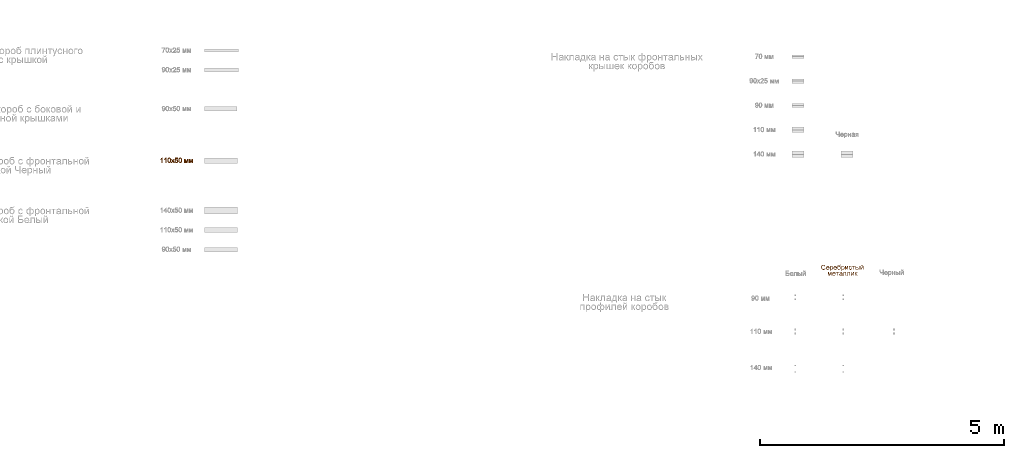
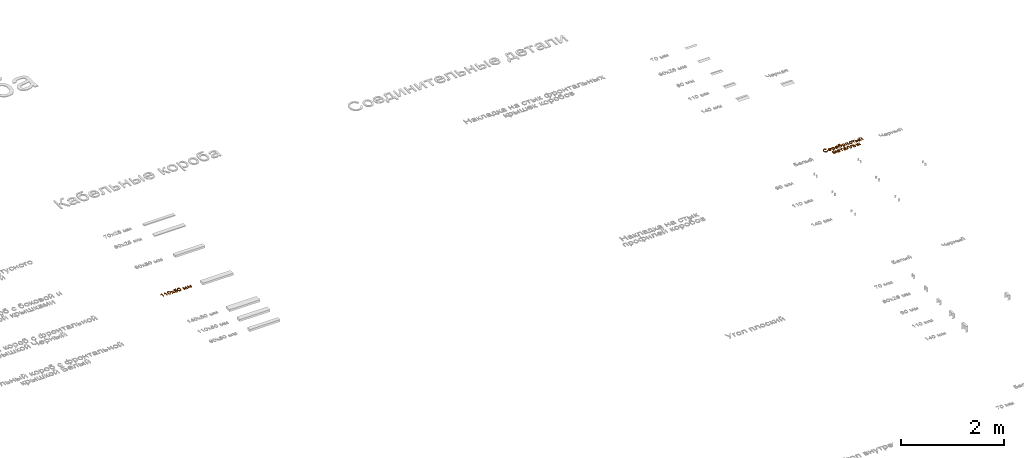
# One storey, part 48 of 87: 2 proxies.
"""IFC2X3 building model written with IfcOpenShell, lengths in millimetres."""

from ifc_helpers import new_model, entity, si_unit, converted_unit, derived_unit, direction, frame, origin, origin_2d_with_axis, place, context, subcontext, project, spatial, polyline, rectangle, outline, extrude, element, save


model = new_model("IFC2X3")

# Units and contexts
model_context = context("Model", 3, precision=0.01, world=origin(), true_north=direction((6.12303176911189e-17, 1.0)))
body_context = subcontext(model_context, "Body", "Model", "MODEL_VIEW")
ifc_project = project(units=[si_unit("LENGTHUNIT", "METRE", prefix="MILLI"), si_unit("AREAUNIT", "SQUARE_METRE"), si_unit("VOLUMEUNIT", "CUBIC_METRE"), converted_unit("PLANEANGLEUNIT", "DEGREE", entity("IfcRatioMeasure", 0.0174532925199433), si_unit("PLANEANGLEUNIT", "RADIAN"), dimensions=[0, 0, 0, 0, 0, 0, 0]), si_unit("MASSUNIT", "GRAM", prefix="KILO"), derived_unit("MASSDENSITYUNIT", [(si_unit("MASSUNIT", "GRAM", prefix="KILO"), 1), (si_unit("LENGTHUNIT", "METRE"), -3)]), si_unit("TIMEUNIT", "SECOND"), si_unit("FREQUENCYUNIT", "HERTZ"), si_unit("THERMODYNAMICTEMPERATUREUNIT", "DEGREE_CELSIUS"), derived_unit("THERMALTRANSMITTANCEUNIT", [(si_unit("MASSUNIT", "GRAM", prefix="KILO"), 1), (si_unit("THERMODYNAMICTEMPERATUREUNIT", "KELVIN"), -1), (si_unit("TIMEUNIT", "SECOND"), -3)]), derived_unit("VOLUMETRICFLOWRATEUNIT", [(si_unit("LENGTHUNIT", "METRE"), 3), (si_unit("TIMEUNIT", "SECOND"), -1)]), si_unit("ELECTRICCURRENTUNIT", "AMPERE"), si_unit("ELECTRICVOLTAGEUNIT", "VOLT"), si_unit("POWERUNIT", "WATT"), si_unit("FORCEUNIT", "NEWTON", prefix="KILO"), si_unit("ILLUMINANCEUNIT", "LUX"), si_unit("LUMINOUSFLUXUNIT", "LUMEN"), si_unit("LUMINOUSINTENSITYUNIT", "CANDELA"), derived_unit("USERDEFINED", [(si_unit("MASSUNIT", "GRAM", prefix="KILO"), -1), (si_unit("LENGTHUNIT", "METRE"), -2), (si_unit("TIMEUNIT", "SECOND"), 3), (si_unit("LUMINOUSFLUXUNIT", "LUMEN"), 1)]), derived_unit("LINEARVELOCITYUNIT", [(si_unit("LENGTHUNIT", "METRE"), 1), (si_unit("TIMEUNIT", "SECOND"), -1)]), si_unit("PRESSUREUNIT", "PASCAL"), derived_unit("USERDEFINED", [(si_unit("LENGTHUNIT", "METRE"), -2), (si_unit("MASSUNIT", "GRAM", prefix="KILO"), 1), (si_unit("TIMEUNIT", "SECOND"), -2)])], contexts=[model_context])

# Site, building, storey
site_placement = place(None, origin())
site = spatial("IfcSite", under=ifc_project, at=site_placement, Name="Default", CompositionType="ELEMENT")
building_placement = place(site_placement, origin())
building = spatial("IfcBuilding", under=site, at=building_placement, Name="Наименование здания", CompositionType="ELEMENT")
storey_placement = place(building_placement, origin())
storey = spatial("IfcBuildingStorey", under=building, at=storey_placement, Name="Этаж 01", CompositionType="ELEMENT", Elevation=0.0)

# Proxies
proxy_1_placement = place(storey_placement, origin())
element("IfcBuildingElementProxy", 1, at=proxy_1_placement, inside=storey, Name="Текст модели:100 мм Arial", ObjectType="Текст модели:100 мм Arial", context=body_context, shape_type="SweptSolid", body=[
    extrude(outline(polyline([(1.51482499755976, -34.4161092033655), (0.106407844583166, -47.3070398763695), (15.8423468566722, -47.0569587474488), (29.0556969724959, -42.3279421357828), (39.3932861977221, -33.4650471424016), (46.5019425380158, -20.8133308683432), (50.1054677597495, -6.60502583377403), (49.5636952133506, 5.96401189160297), (45.1423030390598, 17.1113098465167), (37.1069693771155, 27.0543955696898), (13.8427655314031, 41.4649352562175), (-0.38556185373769, 45.2497080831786), (-13.794742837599, 45.5463194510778), (-25.9267527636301, 42.4308274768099), (-36.3235669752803, 35.9792902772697), (-44.6338782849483, 26.8094665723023), (-50.5063795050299, 15.5391150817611), (-53.5414697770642, 1.96814719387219), (-52.0743247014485, -10.7537866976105), (-46.3177039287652, -22.166184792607), (-36.4843671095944, -31.8085452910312), (-29.2483218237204, -21.1187569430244), (-40.0515191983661, -6.02732816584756), (-38.5860312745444, 11.5610351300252), (-26.6200251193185, 28.0408775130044), (-9.20796903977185, 33.3272162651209), (9.3828738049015, 29.7265712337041), (28.2800845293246, 18.5384764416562), (37.0403955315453, 2.61944954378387), (35.1968742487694, -15.2062682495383), (30.0363719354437, -24.4614258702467), (22.5795019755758, -30.9812938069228), (13.0108058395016, -34.4161092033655), (1.51482499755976, -34.4161092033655)])), frame((13678.1543875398, 205.82023212, 0.0), z_axis=(0.0, 0.0, -1.0), x_axis=(-0.353343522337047, -0.93549364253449, 0.0)), (0.0, 0.0, -1.0), 20.0),
    extrude(outline(polyline([(-8.10128238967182, -20.3751729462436), (-15.5352214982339, -30.3140016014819), (-5.78400372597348, -33.5775071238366), (4.12185089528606, -33.3132173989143), (13.877616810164, -29.4480778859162), (23.1785684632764, -21.909034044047), (31.6380426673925, -9.59237957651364), (34.1620486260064, 3.7413532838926), (30.6040508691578, 17.2442201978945), (20.8175139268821, 30.0682768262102), (7.27698270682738, 39.7846728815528), (-6.66179525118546, 43.1117813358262), (-19.9642596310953, 40.4221234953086), (-31.5958501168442, 32.0882206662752), (-39.2435519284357, 20.5090048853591), (-41.3106827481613, 7.34319797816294), (-37.4373707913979, -6.3496249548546), (-27.2637442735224, -19.509888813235), (-24.7804584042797, -21.8106804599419), (14.4643272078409, 18.7422646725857), (19.7071986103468, 10.6437992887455), (21.1614672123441, 2.21005051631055), (19.1472085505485, -5.98136753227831), (13.9844981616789, -13.3528407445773), (3.53684605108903, -20.3751729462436), (-8.10128238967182, -20.3751729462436)]), holes=[polyline([(5.44081225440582, 27.47469849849), (-25.1227061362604, -4.10760383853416), (-29.8038819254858, 7.41909510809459), (-27.8851342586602, 15.7498710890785), (-22.5382240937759, 23.3910349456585), (-8.40970331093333, 31.2368652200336), (-1.08072680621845, 30.9147288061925), (5.44081225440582, 27.47469849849)])]), frame((13769.4437063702, 186.855885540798, 0.0), z_axis=(0.0, 0.0, -1.0), x_axis=(-0.695421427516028, -0.718602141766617, 0.0)), (0.0, 0.0, -1.0), 20.0),
    extrude(outline(polyline([(-28.8983569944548, -61.2335493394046), (-16.341318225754, -61.2335493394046), (-16.341318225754, -23.1700255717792), (-8.38280439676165, -31.3247431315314), (2.54329085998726, -34.5498419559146), (18.4235303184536, -29.7305878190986), (29.9259740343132, -15.8736993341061), (33.8868368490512, 4.47017499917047), (30.3796951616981, 23.8207679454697), (19.9808974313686, 37.5059781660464), (4.0638697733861, 42.3620205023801), (-7.6593031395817, 38.8916670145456), (-16.341318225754, 28.4806065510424), (-16.341318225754, 40.7923906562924), (-28.8983569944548, 40.7923906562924), (-28.8983569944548, -61.2335493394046)]), holes=[polyline([(-16.341318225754, 3.31747808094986), (-14.8912500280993, 14.7064915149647), (-10.541045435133, 23.0236902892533), (-4.30851130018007, 28.1096588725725), (2.7885455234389, 29.8049817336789), (9.85801119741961, 28.2108264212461), (15.8606190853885, 23.4283604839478), (19.9625033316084, 15.4453211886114), (21.3297980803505, 4.2494458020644), (19.9287808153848, -7.43080754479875), (15.7257290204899, -15.5916564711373), (9.56063991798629, -20.3925165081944), (2.2735107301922, -21.9928031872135), (-4.8971224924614, -20.4476988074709), (-10.9089274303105, -15.8123856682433), (-14.983220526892, -7.93971097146), (-16.341318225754, 3.31747808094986)])]), frame((13843.8787419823, 189.51354682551, 0.0)), (0.0, 0.0, 1.0), 20.0),
    extrude(outline(polyline([(-8.10128238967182, -20.3751729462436), (-15.5352214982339, -30.3140016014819), (-5.78400372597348, -33.5775071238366), (4.12185089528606, -33.3132173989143), (13.877616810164, -29.4480778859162), (23.1785684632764, -21.909034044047), (31.6380426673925, -9.59237957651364), (34.1620486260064, 3.7413532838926), (30.6040508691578, 17.2442201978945), (20.8175139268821, 30.0682768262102), (7.27698270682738, 39.7846728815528), (-6.66179525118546, 43.1117813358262), (-19.9642596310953, 40.4221234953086), (-31.5958501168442, 32.0882206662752), (-39.2435519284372, 20.5090048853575), (-41.3106827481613, 7.34319797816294), (-37.4373707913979, -6.3496249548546), (-27.2637442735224, -19.509888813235), (-24.7804584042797, -21.8106804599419), (14.4643272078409, 18.7422646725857), (19.7071986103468, 10.6437992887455), (21.1614672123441, 2.21005051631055), (19.1472085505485, -5.98136753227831), (13.9844981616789, -13.3528407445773), (3.53684605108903, -20.3751729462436), (-8.10128238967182, -20.3751729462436)]), holes=[polyline([(5.44081225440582, 27.47469849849), (-25.1227061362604, -4.10760383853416), (-29.8038819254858, 7.41909510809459), (-27.8851342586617, 15.749871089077), (-22.5382240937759, 23.3910349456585), (-8.40970331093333, 31.2368652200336), (-1.08072680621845, 30.9147288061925), (5.44081225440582, 27.47469849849)])]), frame((13923.2674312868, 186.855885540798, 0.0), z_axis=(0.0, 0.0, -1.0), x_axis=(-0.695421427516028, -0.718602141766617, 0.0)), (0.0, 0.0, -1.0), 20.0),
    extrude(outline(polyline([(-36.738345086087, 23.9127601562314), (-46.1456290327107, 18.2359508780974), (-38.3115960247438, 11.5197207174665), (-30.9999887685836, 11.792699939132), (-17.4285045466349, 19.0657497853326), (1.79987667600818, 27.2889773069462), (13.3931666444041, 23.4571310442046), (24.169691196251, 10.7967240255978), (8.6478899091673, 15.4661530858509), (-5.41814287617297, 11.6471592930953), (-15.2919624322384, 2.72048531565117), (-20.4292847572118, -9.2846267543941), (-20.2664113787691, -23.1543425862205), (-14.2396438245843, -37.6748278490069), (0.903100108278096, -53.7731800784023), (17.0767569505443, -59.2380141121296), (34.3195220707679, -54.2038283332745), (43.2583696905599, -47.0802563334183), (48.2365748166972, -38.887847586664), (49.6974118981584, -20.3037190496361), (36.3125600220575, 9.18708792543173), (21.8249752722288, 28.5846782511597), (8.11478393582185, 37.4732021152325), (-6.10751497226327, 37.6453980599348), (-22.1314224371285, 30.89400462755), (-34.2462330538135, 23.9127601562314), (-36.738345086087, 23.9127601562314)]), holes=[polyline([(-3.69120535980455, -30.8510713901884), (-7.63080419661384, -21.6880748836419), (-8.22269664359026, -12.8036692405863), (-5.29038751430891, -4.96502020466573), (1.34261837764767, 1.06070648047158), (10.1363779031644, 4.22965492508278), (18.7950054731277, 3.04179706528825), (26.8190649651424, -2.10244930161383), (33.7091202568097, -10.8026663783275), (37.8946357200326, -20.7410650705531), (37.957133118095, -29.851837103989), (34.5102726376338, -37.5498330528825), (28.1677144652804, -43.2499034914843), (20.0017347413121, -46.0113743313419), (11.4205840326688, -44.6908282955), (3.24826858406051, -39.550111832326), (-3.69120535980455, -30.8510713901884)])]), frame((14001.5018625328, 219.104048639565, 0.0), z_axis=(0.0, 0.0, -1.0), x_axis=(-0.856187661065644, -0.516664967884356, 0.0)), (0.0, 0.0, -1.0), 20.0),
    extrude(outline(polyline([(-28.8983569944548, -61.2335493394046), (-16.341318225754, -61.2335493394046), (-16.341318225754, -23.1700255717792), (-8.38280439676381, -31.3247431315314), (2.54329085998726, -34.5498419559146), (18.4235303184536, -29.7305878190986), (29.9259740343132, -15.8736993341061), (33.8868368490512, 4.47017499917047), (30.3796951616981, 23.8207679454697), (19.9808974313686, 37.5059781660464), (4.0638697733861, 42.3620205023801), (-7.6593031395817, 38.8916670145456), (-16.341318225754, 28.4806065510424), (-16.341318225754, 40.7923906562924), (-28.8983569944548, 40.7923906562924), (-28.8983569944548, -61.2335493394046)]), holes=[polyline([(-16.341318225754, 3.31747808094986), (-14.8912500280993, 14.7064915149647), (-10.541045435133, 23.0236902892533), (-4.30851130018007, 28.1096588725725), (2.7885455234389, 29.8049817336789), (9.85801119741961, 28.2108264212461), (15.8606190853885, 23.4283604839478), (19.9625033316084, 15.4453211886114), (21.3297980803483, 4.2494458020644), (19.9287808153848, -7.43080754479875), (15.7257290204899, -15.5916564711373), (9.56063991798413, -20.3925165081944), (2.2735107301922, -21.9928031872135), (-4.89712249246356, -20.4476988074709), (-10.9089274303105, -15.8123856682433), (-14.9832205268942, -7.93971097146), (-16.341318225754, 3.31747808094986)])]), frame((14077.7535890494, 189.51354682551, 0.0)), (0.0, 0.0, 1.0), 20.0),
    extrude(outline(polyline([(-36.9206370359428, -29.8425874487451), (36.8519657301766, -29.8425874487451), (36.8519657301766, -13.4105249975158), (-19.0660975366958, 17.2463079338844), (36.8519657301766, 17.2463079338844), (36.8519657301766, 29.8033467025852), (-36.9206370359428, 29.8033467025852), (-36.9206370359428, 13.5674879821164), (19.3407827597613, -17.2855486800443), (-36.9206370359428, -17.2855486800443), (-36.9206370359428, -29.8425874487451)])), frame((14155.6096819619, 193.385300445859, 0.0), z_axis=(0.0, 0.0, 1.0), x_axis=(0.0, -1.0, 0.0)), (0.0, 0.0, 1.0), 20.0),
    extrude(outline(polyline([(0.26768310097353, -20.7200562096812), (-4.0227824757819, -32.6253015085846), (7.51957889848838, -34.564770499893), (18.0242916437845, -32.5240986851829), (26.8500141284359, -26.8719753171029), (33.3554047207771, -17.9770896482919), (37.2076783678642, -4.9515490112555), (35.3403176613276, 7.71415747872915), (27.6846262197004, 19.1676933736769), (14.1719076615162, 28.5567222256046), (-6.1620062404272, 34.5864889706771), (-23.4110955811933, 30.2307841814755), (-35.1302422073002, 17.0254849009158), (-38.5714296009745, 6.87231136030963), (-38.3156698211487, -2.77330902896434), (-34.4593562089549, -11.5597521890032), (-27.0988821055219, -19.1353940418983), (-20.009908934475, -8.65257858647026), (-25.7552259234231, 0.801697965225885), (-23.9806627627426, 11.2483121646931), (-18.9208808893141, 17.7794646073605), (-11.8538304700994, 21.4126833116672), (-2.81100512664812, 21.5312059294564), (8.17610151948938, 17.518270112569), (18.046848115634, 10.9639331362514), (23.3470531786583, 3.6582814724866), (24.6053297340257, -4.0758667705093), (22.3502908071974, -11.9156934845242), (13.5558525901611, -20.7200562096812), (0.26768310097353, -20.7200562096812)])), frame((14232.9877819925, 192.844133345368, 0.0), z_axis=(0.0, 0.0, -1.0), x_axis=(-0.453109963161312, -0.891454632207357, 0.0)), (0.0, 0.0, -1.0), 20.0),
    extrude(outline(polyline([(-24.7216700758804, -29.8229670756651), (-12.1646313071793, -29.8229670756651), (-12.1646313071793, -6.2785193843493), (49.0509326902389, -6.2785193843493), (49.0509326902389, 6.27851938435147), (-12.1646313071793, 6.27851938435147), (-12.1646313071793, 29.8229670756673), (-24.7216700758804, 29.8229670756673), (-24.7216700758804, -29.8229670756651)])), frame((14298.4263775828, 205.584267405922, 0.0), z_axis=(0.0, 0.0, 1.0), x_axis=(0.0, -1.0, 0.0)), (0.0, 0.0, 1.0), 20.0),
    extrude(outline(polyline([(-42.3988715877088, -34.5139341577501), (31.3737311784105, -34.5139341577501), (31.3737311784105, -3.73447389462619), (29.653882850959, 9.3161398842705), (24.4943378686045, 18.2526066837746), (16.9129030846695, 23.4121516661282), (7.9273853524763, 25.1319999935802), (-1.94104916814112, 23.0810578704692), (-9.42438208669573, 16.9282315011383), (-14.1424686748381, 6.9862205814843), (-15.7151642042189, -6.43227519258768), (-15.7151642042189, -21.9568953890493), (-42.3988715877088, -21.9568953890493), (-42.3988715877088, -34.5139341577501)]), holes=[polyline([(18.8166924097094, -21.9568953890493), (-3.1581254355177, -21.9568953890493), (-3.1581254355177, -7.41329384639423), (0.226388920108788, 8.88387853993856), (7.95191081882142, 12.5749612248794), (16.180204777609, 7.59629155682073), (18.8166924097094, -9.05650009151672), (18.8166924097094, -21.9568953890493)])]), frame((14373.7506877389, 187.907065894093, 0.0), z_axis=(0.0, 0.0, 1.0), x_axis=(0.0, -1.0, 0.0)), (0.0, 0.0, 1.0), 20.0),
    extrude(outline(polyline([(-11.1429830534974, -6.65049913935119), (-15.3141401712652, -15.09419566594), (-0.0922190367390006, -15.8161107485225), (10.2631635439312, -5.845475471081), (12.4162171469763, 9.421724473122), (2.76087400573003, 21.4951559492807), (-1.41028311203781, 13.0514594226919), (3.36929976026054, 6.75127419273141), (2.31913688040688, -0.662833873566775), (-3.16906596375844, -6.65049913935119), (-11.1429830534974, -6.65049913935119)])), frame((14469.6055487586, 249.944704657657, 0.0), z_axis=(0.0, 0.0, -1.0), x_axis=(-0.442902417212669, -0.896569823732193, 0.0)), (0.0, 0.0, -1.0), 20.0),
    extrude(outline(polyline([(-36.9206370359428, -29.8425874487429), (36.8519657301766, -29.8425874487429), (36.8519657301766, -13.4105249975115), (-19.0660975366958, 17.2463079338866), (36.8519657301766, 17.2463079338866), (36.8519657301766, 29.8033467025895), (-36.9206370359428, 29.8033467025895), (-36.9206370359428, 13.5674879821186), (19.3407827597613, -17.28554868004), (-36.9206370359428, -17.28554868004), (-36.9206370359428, -29.8425874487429)])), frame((14469.5356511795, 193.385300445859, 0.0), z_axis=(0.0, 0.0, 1.0), x_axis=(0.0, -1.0, 0.0)), (0.0, 0.0, 1.0), 20.0),
    extrude(outline(polyline([(-40.58398707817, -38.4502715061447), (33.1886156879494, -38.4502715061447), (33.1886156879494, -25.893232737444), (-29.0570178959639, -25.893232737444), (33.1886156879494, -8.6273044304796), (33.1886156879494, 7.85380895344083), (-26.21206379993, 25.9045521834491), (33.1886156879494, 25.9045521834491), (33.1886156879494, 38.4615909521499), (-40.58398707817, 38.4615909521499), (-40.58398707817, 17.7620973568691), (18.4733358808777, -0.190544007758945), (-40.58398707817, -16.8433356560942), (-40.58398707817, -38.4502715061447)])), frame((13807.9113909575, 67.747132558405, 0.0), z_axis=(0.0, 0.0, 1.0), x_axis=(0.0, -1.0, 0.0)), (0.0, 0.0, 1.0), 20.0),
    extrude(outline(polyline([(-8.10128238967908, -20.3751729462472), (-15.5352214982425, -30.3140016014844), (-5.78400372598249, -33.5775071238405), (4.1218508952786, -33.3132173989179), (13.8776168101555, -29.4480778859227), (23.178568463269, -21.9090340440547), (31.6380426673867, -9.59237957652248), (34.1620486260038, 3.74135328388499), (30.6040508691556, 17.2442201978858), (20.8175139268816, 30.0682768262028), (7.27698270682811, 39.7846728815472), (-6.66179525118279, 43.111781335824), (-19.9642596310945, 40.4221234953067), (-31.5958501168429, 32.0882206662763), (-39.2435519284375, 20.5090048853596), (-41.3106827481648, 7.34319797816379), (-37.4373707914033, -6.34962495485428), (-27.263744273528, -19.5098888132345), (-24.7804584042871, -21.8106804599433), (14.4643272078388, 18.7422646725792), (19.7071986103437, 10.6437992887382), (21.1614672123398, 2.21005051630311), (19.1472085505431, -5.98136753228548), (13.9844981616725, -13.3528407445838), (3.53684605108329, -20.3751729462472), (-8.10128238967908, -20.3751729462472)]), holes=[polyline([(5.44081225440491, 27.4746984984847), (-25.122706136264, -4.1076038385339), (-29.8038819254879, 7.41909510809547), (-27.8851342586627, 15.7498710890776), (-22.5382240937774, 23.3910349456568), (-8.40970331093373, 31.2368652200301), (-1.08072680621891, 30.914728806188), (5.44081225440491, 27.4746984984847)])]), frame((13896.5837239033, 64.881067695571, 0.0), z_axis=(0.0, 0.0, -1.0), x_axis=(-0.695421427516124, -0.718602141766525, 0.0)), (0.0, 0.0, -1.0), 20.0),
    extrude(outline(polyline([(-24.7216700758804, -29.8229670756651), (-12.1646313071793, -29.8229670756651), (-12.1646313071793, -6.27851938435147), (49.0509326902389, -6.27851938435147), (49.0509326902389, 6.27851938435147), (-12.1646313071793, 6.27851938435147), (-12.1646313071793, 29.8229670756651), (-24.7216700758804, 29.8229670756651), (-24.7216700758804, -29.8229670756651)])), frame((13965.6648502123, 83.6094495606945, 0.0), z_axis=(0.0, 0.0, 1.0), x_axis=(0.0, -1.0, 0.0)), (0.0, 0.0, 1.0), 20.0),
    extrude(outline(polyline([(32.0508237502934, 7.88266535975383), (41.9780345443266, 7.88266535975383), (45.9489188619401, 19.7953183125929), (35.1414436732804, 20.7608946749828), (14.2438893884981, 27.0545912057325), (-0.577126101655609, 31.9949297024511), (-11.1945882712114, 34.8877809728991), (-20.4974705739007, 33.9299602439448), (-28.5323068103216, 27.5470739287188), (-35.461965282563, 13.8157249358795), (-38.3044049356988, -2.69989645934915), (-34.9462156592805, -15.3493345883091), (-25.0306383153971, -24.3807697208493), (-19.5706723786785, -12.9644773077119), (-25.7868125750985, -4.50695904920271), (-24.0611841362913, 8.30922519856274), (-16.2279943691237, 20.3304570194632), (-6.33956174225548, 20.6794605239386), (-3.71040200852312, 19.7255176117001), (-6.5024300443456, -2.30048133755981), (-8.14662433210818, -13.2049019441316), (-7.01817966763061, -22.849032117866), (-2.17478658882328, -31.1204151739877), (6.48825595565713, -36.5416029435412), (15.0010331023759, -37.7020395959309), (22.9495879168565, -35.3200906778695), (29.6378522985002, -29.3899394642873), (34.3697581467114, -19.9057692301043), (36.2737661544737, -6.36055543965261), (32.0508237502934, 7.88266535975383)]), holes=[polyline([(8.22551784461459, 15.8244339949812), (11.5759514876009, 14.6300664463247), (20.1614376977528, 9.67421668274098), (24.4696920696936, -0.396473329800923), (23.3024692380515, -13.3987927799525), (17.2491973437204, -22.9498553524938), (9.62153186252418, -24.34974718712), (5.58084684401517, -21.1932043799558), (3.98706417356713, -15.5044472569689), (5.47226797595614, -4.61166010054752), (8.22551784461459, 15.8244339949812)])]), frame((14035.9506082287, 71.8896594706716, 0.0), z_axis=(0.0, 0.0, 1.0), x_axis=(0.316227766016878, -0.948683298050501, 0.0)), (0.0, 0.0, 1.0), 20.0),
    extrude(outline(polyline([(-49.3689973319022, 12.5447760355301), (-49.3689973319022, -43.9618984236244), (24.3300290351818, -43.9618984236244), (24.3300290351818, -31.4048596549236), (-36.811958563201, -31.4048596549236), (-36.811958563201, -0.0122627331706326), (-1.6179143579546, -0.0122627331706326), (14.6179443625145, 0.833865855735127), (21.4728122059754, 5.48144172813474), (24.4036054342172, 16.4688506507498), (23.765943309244, 26.6714446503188), (11.846566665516, 26.6714446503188), (11.846566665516, 21.0551128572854), (11.0740144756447, 15.3774673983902), (8.62146784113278, 13.108861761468), (-2.32915288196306, 12.5447760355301), (-49.3689973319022, 12.5447760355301)])), frame((14102.2103840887, 58.9621223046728, 0.0), z_axis=(0.0, 0.0, -1.0), x_axis=(0.0, -1.0, 0.0)), (0.0, 0.0, -1.0), 20.0),
    extrude(outline(polyline([(-49.3689973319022, 12.544776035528), (-49.3689973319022, -43.9618984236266), (24.3300290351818, -43.9618984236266), (24.3300290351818, -31.4048596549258), (-36.811958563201, -31.4048596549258), (-36.811958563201, -0.0122627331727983), (-1.6179143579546, -0.0122627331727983), (14.6179443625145, 0.833865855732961), (21.4728122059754, 5.48144172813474), (24.4036054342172, 16.4688506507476), (23.765943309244, 26.6714446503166), (11.846566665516, 26.6714446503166), (11.846566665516, 21.0551128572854), (11.0740144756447, 15.3774673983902), (8.62146784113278, 13.1088617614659), (-2.32915288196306, 12.544776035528), (-49.3689973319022, 12.544776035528)])), frame((14183.8311360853, 58.9621223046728, 0.0), z_axis=(0.0, 0.0, -1.0), x_axis=(0.0, -1.0, 0.0)), (0.0, 0.0, -1.0), 20.0),
    extrude(outline(polyline([(-36.9206370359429, -29.8425874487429), (36.8519657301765, -29.8425874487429), (36.8519657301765, -13.4105249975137), (-19.0660975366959, 17.2463079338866), (36.8519657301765, 17.2463079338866), (36.8519657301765, 29.8033467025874), (-36.9206370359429, 29.8033467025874), (-36.9206370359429, 13.5674879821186), (19.3407827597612, -17.2855486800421), (-36.9206370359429, -17.2855486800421), (-36.9206370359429, -29.8425874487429)])), frame((14276.4711801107, 71.4104826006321, 0.0), z_axis=(0.0, 0.0, 1.0), x_axis=(0.0, -1.0, 0.0)), (0.0, 0.0, 1.0), 20.0),
    extrude(outline(polyline([(-30.3295712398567, -29.5353037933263), (43.4430315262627, -29.5353037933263), (43.4430315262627, -16.9782650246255), (8.91117491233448, -16.9782650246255), (11.2288314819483, -10.2337617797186), (20.8060260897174, -3.61188586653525), (43.4430315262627, 9.55828956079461), (43.4430315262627, 23.8321109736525), (20.315516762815, 10.3921554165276), (10.0209522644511, 2.61758258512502), (5.13425309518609, -5.30414304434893), (0.75645735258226, 1.7959794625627), (-8.18307513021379, 6.86048826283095), (-16.4481572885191, 11.1769703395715), (-17.7725324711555, 17.3083369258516), (-17.6989560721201, 20.6928512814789), (-30.3295712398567, 20.6928512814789), (-30.3295712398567, 18.2893555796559), (-29.373078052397, 9.10456843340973), (-25.6819953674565, 4.05232236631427), (-14.3389671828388, -1.6743740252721), (-1.19331722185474, -8.56603006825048), (1.06302568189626, -16.9782650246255), (-30.3295712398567, -16.9782650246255), (-30.3295712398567, -29.5353037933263)])), frame((14354.6453887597, 78.0015483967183, 0.0), z_axis=(0.0, 0.0, 1.0), x_axis=(0.0, -1.0, 0.0)), (0.0, 0.0, 1.0), 20.0),
    extrude(rectangle(XDim=73.7726027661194, YDim=12.5570387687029, at=origin_2d_with_axis()), frame((14414.5789861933, 193.419636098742, 0.0), z_axis=(0.0, 0.0, 1.0), x_axis=(0.0, -1.0, 0.0)), (0.0, 0.0, 1.0), 20.0),
])
proxy_2_placement = place(storey_placement, origin())
element("IfcBuildingElementProxy", 2, at=proxy_2_placement, inside=storey, Name="Текст модели:100 мм Arial", ObjectType="Текст модели:100 мм Arial", context=body_context, shape_type="SweptSolid", body=[
    extrude(outline(polyline([(-63.8793021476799, -16.9184842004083), (36.5770080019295, -16.9184842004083), (36.5770080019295, -8.82508030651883), (23.2106288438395, 2.34626961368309), (11.4629304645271, 20.7526321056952), (-0.407395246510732, 20.7526321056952), (5.93243780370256, 7.53340574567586), (14.4059864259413, -4.3614454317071), (-63.8793021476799, -4.3614454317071), (-63.8793021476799, -16.9184842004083)])), frame((129.947977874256, 2410.61672560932, 0.0), z_axis=(0.0, 0.0, 1.0), x_axis=(0.0, 1.0, 0.0)), (0.0, 0.0, 1.0), 20.0),
    extrude(outline(polyline([(-63.8793021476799, -16.9184842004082), (36.5770080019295, -16.9184842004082), (36.5770080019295, -8.82508030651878), (23.2106288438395, 2.34626961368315), (11.4629304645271, 20.7526321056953), (-0.407395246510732, 20.7526321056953), (5.93243780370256, 7.53340574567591), (14.4059864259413, -4.36144543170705), (-63.8793021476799, -4.36144543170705), (-63.8793021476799, -16.9184842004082)])), frame((206.85984033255, 2410.61672560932, 0.0), z_axis=(0.0, 0.0, 1.0), x_axis=(0.0, 1.0, 0.0)), (0.0, 0.0, 1.0), 20.0),
    extrude(outline(polyline([(-7.02884310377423, -33.3490673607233), (17.5323805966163, -33.3490673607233), (35.1984171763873, -27.6137612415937), (43.3439841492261, -18.4876517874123), (47.051694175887, -5.75150665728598), (46.7162020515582, 4.48638208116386), (43.4465778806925, 13.0955287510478), (27.9444305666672, 25.6659118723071), (-0.314338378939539, 32.23255354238), (-24.0296505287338, 32.3678288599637), (-39.4143020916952, 28.0260881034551), (-49.7293680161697, 18.9002174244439), (-54.4436715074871, 4.6399887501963), (-50.8676582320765, -14.130105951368), (-35.4058547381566, -26.7333390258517), (-7.02884310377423, -33.3490673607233)]), holes=[polyline([(-5.77428774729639, -20.8548320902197), (-25.0157644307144, -17.3562860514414), (-36.725708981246, -11.5717922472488), (-41.0962588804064, -4.77599682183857), (-41.966921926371, 3.21464792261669), (-39.2244253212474, 11.2791292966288), (-32.8654063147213, 17.2229259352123), (-20.9698370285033, 20.2947501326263), (-1.61768958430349, 19.74331418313), (17.8514140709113, 16.2707701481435), (28.7803640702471, 10.7141596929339), (33.5546988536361, 3.61815959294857), (34.5599568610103, -4.4725533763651), (31.9421230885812, -12.1923199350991), (25.8471825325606, -18.1754808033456), (14.0250679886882, -21.4027476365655), (-5.77428774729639, -20.8548320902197)])]), frame((287.492829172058, 2392.56060040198, 0.0), z_axis=(0.0, 0.0, 1.0), x_axis=(0.101851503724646, -0.994799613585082, 0.0)), (0.0, 0.0, 1.0), 20.0),
    extrude(outline(polyline([(-34.5302215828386, -38.4265006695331), (-19.4225343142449, -38.4265006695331), (-0.341721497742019, -12.0616243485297), (2.47870713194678, -16.1328517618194), (17.8561745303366, -38.4265006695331), (32.9638617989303, -38.4265006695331), (7.40832586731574, -1.34399555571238), (33.944880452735, 35.3461020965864), (18.8371931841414, 35.3461020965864), (4.95577923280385, 16.1671874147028), (0.0261604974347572, 9.34910777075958), (-5.66374769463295, 17.6877663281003), (-17.8529044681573, 35.3461020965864), (-32.9605917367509, 35.3461020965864), (-7.69936140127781, -1.34399555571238), (-34.5302215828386, -38.4265006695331)])), frame((360.334486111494, 2385.16392413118, 0.0)), (0.0, 0.0, 1.0), 20.0),
    extrude(outline(polyline([(3.81439562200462, -37.2548959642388), (15.73239467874, -37.2548959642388), (26.158813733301, -33.0579698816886), (34.2921694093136, -25.053720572), (39.3309783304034, -13.6317508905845), (40.22192881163, 1.43409098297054), (34.3991305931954, 14.6815107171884), (25.5350217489, 23.1481891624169), (13.9054384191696, 28.2770976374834), (0.912111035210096, 29.4702838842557), (-10.7159258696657, 25.7768606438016), (-19.742707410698, 18.0989984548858), (-24.9322687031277, 7.33886785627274), (-25.5937300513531, -2.21124798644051), (-22.6370240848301, -12.2793380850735), (-47.9924930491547, 0.0204883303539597), (-38.0977082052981, 37.2324069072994), (-50.2330599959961, 40.4592412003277), (-62.7370428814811, -6.56524698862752), (-15.5021967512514, -30.4943712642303), (-10.7584434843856, -18.7623737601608), (-14.4216298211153, -10.4922324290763), (-13.6981616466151, 0.722667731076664), (-9.98738154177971, 9.35727561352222), (-4.32553373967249, 14.6878856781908), (11.4370636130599, 15.940068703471), (19.7481682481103, 12.2772427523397), (25.4355726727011, 6.40632241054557), (28.0665145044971, -1.27212018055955), (27.2082313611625, -10.3575128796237), (19.6530635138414, -21.9256319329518), (5.52431094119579, -24.7161898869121), (3.81439562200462, -37.2548959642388)])), frame((436.170108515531, 2386.68097750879, 0.0), z_axis=(0.0, 0.0, 1.0), x_axis=(0.256974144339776, -0.966418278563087, 0.0)), (0.0, 0.0, 1.0), 20.0),
    extrude(outline(polyline([(-7.02884310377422, -33.3490673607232), (17.5323805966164, -33.3490673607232), (35.1984171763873, -27.6137612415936), (43.3439841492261, -18.4876517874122), (47.051694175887, -5.75150665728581), (46.7162020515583, 4.48638208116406), (43.4465778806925, 13.095528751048), (27.9444305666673, 25.6659118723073), (-0.314338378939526, 32.2325535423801), (-24.0296505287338, 32.3678288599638), (-39.4143020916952, 28.0260881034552), (-49.7293680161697, 18.900217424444), (-54.4436715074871, 4.63998875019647), (-50.8676582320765, -14.1301059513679), (-35.4058547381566, -26.7333390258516), (-7.02884310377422, -33.3490673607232)]), holes=[polyline([(-5.77428774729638, -20.8548320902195), (-25.0157644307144, -17.3562860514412), (-36.725708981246, -11.5717922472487), (-41.0962588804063, -4.77599682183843), (-41.966921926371, 3.21464792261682), (-39.2244253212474, 11.2791292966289), (-32.8654063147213, 17.2229259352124), (-20.9698370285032, 20.2947501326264), (-1.61768958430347, 19.7433141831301), (17.8514140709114, 16.2707701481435), (28.7803640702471, 10.7141596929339), (33.5546988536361, 3.61815959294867), (34.5599568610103, -4.47255337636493), (31.9421230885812, -12.1923199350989), (25.8471825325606, -18.1754808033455), (14.0250679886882, -21.4027476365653), (-5.77428774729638, -20.8548320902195)])]), frame((511.949897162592, 2392.56060040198, 0.0), z_axis=(0.0, 0.0, 1.0), x_axis=(0.101851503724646, -0.994799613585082, 0.0)), (0.0, 0.0, 1.0), 20.0),
    extrude(outline(polyline([(-40.58398707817, -38.4502715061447), (33.1886156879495, -38.4502715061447), (33.1886156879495, -25.8932327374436), (-29.0570178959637, -25.8932327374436), (33.1886156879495, -8.62730443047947), (33.1886156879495, 7.85380895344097), (-26.21206379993, 25.9045521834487), (33.1886156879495, 25.9045521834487), (33.1886156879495, 38.46159095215), (-40.58398707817, 38.46159095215), (-40.58398707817, 17.7620973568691), (18.4733358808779, -0.190544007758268), (-40.58398707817, -16.8433356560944), (-40.58398707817, -38.4502715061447)])), frame((635.800499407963, 2379.92603914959, 0.0), z_axis=(0.0, 0.0, 1.0), x_axis=(0.0, -1.0, 0.0)), (0.0, 0.0, 1.0), 20.0),
    extrude(outline(polyline([(-40.58398707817, -38.4502715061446), (33.1886156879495, -38.4502715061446), (33.1886156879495, -25.8932327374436), (-29.0570178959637, -25.8932327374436), (33.1886156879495, -8.62730443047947), (33.1886156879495, 7.85380895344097), (-26.21206379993, 25.904552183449), (33.1886156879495, 25.904552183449), (33.1886156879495, 38.46159095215), (-40.58398707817, 38.46159095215), (-40.58398707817, 17.7620973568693), (18.4733358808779, -0.190544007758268), (-40.58398707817, -16.8433356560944), (-40.58398707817, -38.4502715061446)])), frame((731.547920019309, 2379.92603914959, 0.0), z_axis=(0.0, 0.0, 1.0), x_axis=(0.0, -1.0, 0.0)), (0.0, 0.0, 1.0), 20.0),
])

save(model, "model.ifc")
